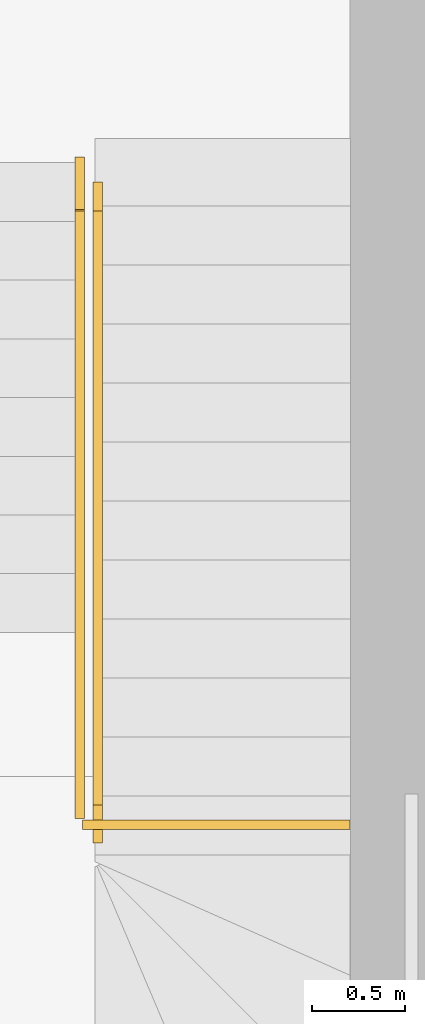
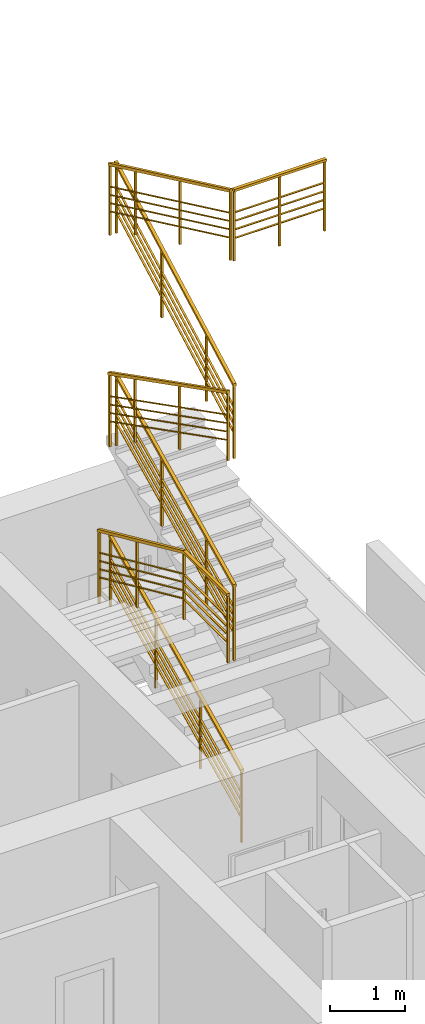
# One storey, part 44 of 49: 1 railing.
"""IFC2X3 building model written with IfcOpenShell, lengths in millimetres."""

from ifc_helpers import new_model, entity, si_unit, converted_unit, derived_unit, direction, frame, frame_2d, origin, place, context, subcontext, project, spatial, polyline, rectangle, outline, extrude, source, transform, mapped, material, type_object, type_shapes, element, save


model = new_model("IFC2X3")

# Units and contexts
model_context = context("Model", 3, precision=0.01, world=origin(), true_north=direction((6.12303176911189e-17, 1.0)))
body_context = subcontext(model_context, "Body", "Model", "MODEL_VIEW")
ifc_project = project(units=[si_unit("LENGTHUNIT", "METRE", prefix="MILLI"), si_unit("AREAUNIT", "SQUARE_METRE"), si_unit("VOLUMEUNIT", "CUBIC_METRE"), converted_unit("PLANEANGLEUNIT", "DEGREE", entity("IfcRatioMeasure", 0.0174532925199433), si_unit("PLANEANGLEUNIT", "RADIAN"), dimensions=[0, 0, 0, 0, 0, 0, 0]), si_unit("MASSUNIT", "GRAM", prefix="KILO"), derived_unit("MASSDENSITYUNIT", [(si_unit("MASSUNIT", "GRAM", prefix="KILO"), 1), (si_unit("LENGTHUNIT", "METRE"), -3)]), si_unit("TIMEUNIT", "SECOND"), si_unit("FREQUENCYUNIT", "HERTZ"), si_unit("THERMODYNAMICTEMPERATUREUNIT", "DEGREE_CELSIUS"), derived_unit("THERMALTRANSMITTANCEUNIT", [(si_unit("MASSUNIT", "GRAM", prefix="KILO"), 1), (si_unit("THERMODYNAMICTEMPERATUREUNIT", "KELVIN"), -1), (si_unit("TIMEUNIT", "SECOND"), -3)]), derived_unit("VOLUMETRICFLOWRATEUNIT", [(si_unit("LENGTHUNIT", "METRE"), 3), (si_unit("TIMEUNIT", "SECOND"), -1)]), si_unit("ELECTRICCURRENTUNIT", "AMPERE"), si_unit("ELECTRICVOLTAGEUNIT", "VOLT"), si_unit("POWERUNIT", "WATT"), si_unit("FORCEUNIT", "NEWTON", prefix="KILO"), si_unit("ILLUMINANCEUNIT", "LUX"), si_unit("LUMINOUSFLUXUNIT", "LUMEN"), si_unit("LUMINOUSINTENSITYUNIT", "CANDELA"), derived_unit("USERDEFINED", [(si_unit("MASSUNIT", "GRAM", prefix="KILO"), -1), (si_unit("LENGTHUNIT", "METRE"), -2), (si_unit("TIMEUNIT", "SECOND"), 3), (si_unit("LUMINOUSFLUXUNIT", "LUMEN"), 1)]), derived_unit("LINEARVELOCITYUNIT", [(si_unit("LENGTHUNIT", "METRE"), 1), (si_unit("TIMEUNIT", "SECOND"), -1)]), si_unit("PRESSUREUNIT", "PASCAL"), derived_unit("USERDEFINED", [(si_unit("LENGTHUNIT", "METRE"), -2), (si_unit("MASSUNIT", "GRAM", prefix="KILO"), 1), (si_unit("TIMEUNIT", "SECOND"), -2)])], contexts=[model_context])

# Site, building, storey
site_placement = place(None, frame((-151.875543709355, 2715.0, 0.0)))
site = spatial("IfcSite", under=ifc_project, at=site_placement, Name="Surface", CompositionType="ELEMENT")
building_placement = place(site_placement, origin())
building = spatial("IfcBuilding", under=site, at=building_placement, CompositionType="ELEMENT")
storey_placement = place(building_placement, origin())
storey = spatial("IfcBuildingStorey", under=building, at=storey_placement, Name="1 korrus", CompositionType="ELEMENT", Elevation=3.0969999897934e-10)

# Railing
ifc_material = material(Name="__Metal Tumehall")
railing_type = type_object("IfcRailingType", Name="Generic Models 7", PredefinedType="NOTDEFINED", material=ifc_material)
shared_shape = source(origin(), body_context, "Body", "SweptSolid", [
    extrude(outline(polyline([(-1974.06397110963, -19.8931371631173), (1954.90163188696, -19.8931371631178), (1974.06397110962, 19.8931371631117), (-1954.90163188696, 19.8931371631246), (-1974.06397110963, -19.8931371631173)])), frame((33791.6162682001, 9910.0918754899, 2530.26647645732), z_axis=(1.0, 0.0, 0.0), x_axis=(0.0, 0.90094868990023, 0.43392563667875)), (0.0, 0.0, 1.0), 50.0000000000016),
    extrude(outline(polyline([(-2368.06977278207, -772.760373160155), (1560.89583021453, -772.760373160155), (2060.34285601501, 264.228699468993), (2033.31439531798, 277.246468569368), (1859.05779388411, -84.5580516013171), (669.999617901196, -84.5580516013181), (835.982995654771, 260.068986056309), (808.954534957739, 273.086755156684), (636.701384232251, -84.5580516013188), (-655.35125931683, -84.5580516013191), (-497.856743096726, 242.443780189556), (-524.885203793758, 255.461549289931), (-688.649492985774, -84.558051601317), (-2003.3113417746, -84.5580516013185), (-1850.04856686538, 233.65752404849), (-1877.07702756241, 246.675293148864), (-2368.06977278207, -772.760373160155)]), holes=[polyline([(-869.961041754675, -461.010578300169), (-1015.29337124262, -762.760373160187), (-2329.95522003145, -762.760373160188), (-2184.6228905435, -461.010578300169), (-869.961041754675, -461.010578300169)]), polyline([(-865.144722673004, -451.010578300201), (-2179.80657146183, -451.010578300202), (-2125.79114731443, -338.859736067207), (-811.129298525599, -338.859736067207), (-865.144722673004, -451.010578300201)]), polyline([(-806.312979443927, -328.859736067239), (-2120.97482823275, -328.85973606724), (-2066.95940408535, -216.708893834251), (-752.297555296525, -216.708893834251), (-806.312979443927, -328.859736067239)]), polyline([(-747.481236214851, -206.708893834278), (-2062.14308500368, -206.70889383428), (-2008.12766085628, -94.5580516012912), (-693.465812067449, -94.5580516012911), (-747.481236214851, -206.708893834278)]), polyline([(-981.995137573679, -762.760373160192), (-836.662808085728, -461.010578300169), (455.389835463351, -461.010578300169), (310.057505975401, -762.760373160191), (-981.995137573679, -762.760373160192)]), polyline([(460.206154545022, -451.010578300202), (-831.846489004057, -451.010578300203), (-777.831064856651, -338.859736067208), (514.221578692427, -338.859736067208), (460.206154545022, -451.010578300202)]), polyline([(519.0378977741, -328.859736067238), (-773.01474577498, -328.859736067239), (-718.999321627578, -216.708893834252), (573.053321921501, -216.708893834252), (519.0378977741, -328.859736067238)]), polyline([(577.869641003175, -206.708893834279), (-714.183002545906, -206.70889383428), (-660.167578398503, -94.5580516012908), (631.885065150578, -94.558051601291), (577.869641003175, -206.708893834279)]), polyline([(343.355739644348, -762.760373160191), (488.688069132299, -461.010578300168), (1677.74624511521, -461.010578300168), (1532.41391562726, -762.76037316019), (343.355739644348, -762.760373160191)]), polyline([(547.519812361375, -338.859736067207), (1736.57798834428, -338.859736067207), (1682.56256419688, -451.010578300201), (493.504388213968, -451.010578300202), (547.519812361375, -338.859736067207)]), polyline([(606.351555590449, -216.708893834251), (1795.40973157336, -216.70889383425), (1741.39430742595, -328.859736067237), (552.336131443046, -328.859736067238), (606.351555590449, -216.708893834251)]), polyline([(665.183298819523, -94.5580516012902), (1854.24147480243, -94.5580516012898), (1800.22605065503, -206.708893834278), (611.167874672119, -206.708893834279), (665.183298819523, -94.5580516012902)])]), frame((33801.6162682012, 9881.80125937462, 1636.84208619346), z_axis=(1.0, 0.0, 0.0), x_axis=(0.0, -0.90094868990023, -0.43392563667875)), (0.0, 0.0, 1.0), 30.0000000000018),
    extrude(outline(polyline([(-717.709927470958, -1923.60066880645), (-674.021776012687, -1923.60066880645), (369.777001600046, 377.504891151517), (369.777001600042, 1546.09577765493), (326.088850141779, 1546.09577765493), (326.088850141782, 377.504891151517), (-717.709927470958, -1923.60066880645)])), frame((33694.5109061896, 9889.38501841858, 4113.37887731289), z_axis=(1.0, 0.0, 0.0), x_axis=(0.0, 0.0, 1.0)), (0.0, 0.0, 1.0), 50.0000000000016),
    extrude(outline(polyline([(-1168.9382876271, -1738.22424888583), (-80.7248805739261, -1738.22424888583), (-80.7248805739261, -1708.2242488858), (-403.312469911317, -1708.2242488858), (-403.312469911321, -569.566163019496), (-80.7248805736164, -569.566163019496), (-80.7248805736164, -539.566163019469), (-400.842394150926, -539.566163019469), (155.170509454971, 688.170043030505), (488.874318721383, 688.170043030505), (488.874318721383, 718.170043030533), (168.756805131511, 718.170043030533), (614.071265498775, 1701.47219757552), (1040.16297114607, 1701.47219757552), (1040.16297114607, 1731.47219757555), (-127.829728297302, 1731.47219757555), (-1168.93828762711, -567.407314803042), (-1168.9382876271, -1738.22424888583)]), holes=[polyline([(-535.46331214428, -569.566163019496), (-413.312469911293, -569.566163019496), (-413.312469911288, -1708.2242488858), (-535.463312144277, -1708.2242488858), (-535.46331214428, -569.566163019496)]), polyline([(-657.614154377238, -569.566163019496), (-545.463312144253, -569.566163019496), (-545.463312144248, -1708.2242488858), (-657.614154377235, -1708.2242488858), (-657.614154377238, -569.566163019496)]), polyline([(-804.764996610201, -569.566163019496), (-667.614154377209, -569.566163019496), (-667.614154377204, -1708.2242488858), (-804.764996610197, -1708.2242488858), (-804.764996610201, -569.566163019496)]), polyline([(-814.764996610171, -569.566163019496), (-814.764996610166, -1708.2242488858), (-1158.9382876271, -1708.2242488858), (-1158.93828762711, -569.566163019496), (-814.764996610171, -569.566163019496)]), polyline([(-258.087467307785, 688.170043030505), (-814.100370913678, -539.566163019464), (-1145.35199195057, -539.566163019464), (-589.339088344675, 688.170043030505), (-258.087467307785, 688.170043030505)]), polyline([(-247.109775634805, 688.170043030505), (-123.994038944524, 688.170043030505), (-680.006942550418, -539.566163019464), (-803.1226792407, -539.566163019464), (-247.109775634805, 688.170043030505)]), polyline([(-113.016347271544, 688.170043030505), (10.0993894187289, 688.170043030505), (-545.913514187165, -539.566163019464), (-669.029250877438, -539.566163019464), (-113.016347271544, 688.170043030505)]), polyline([(21.0770810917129, 688.170043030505), (144.192817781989, 688.170043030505), (-411.820085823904, -539.566163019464), (-534.935822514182, -539.566163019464), (21.0770810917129, 688.170043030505)]), polyline([(200.813288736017, 1701.47219757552), (-244.501171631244, 718.170043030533), (-575.752792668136, 718.170043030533), (-130.438332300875, 1701.47219757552), (200.813288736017, 1701.47219757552)]), polyline([(211.790980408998, 1701.47219757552), (334.906717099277, 1701.47219757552), (-110.407743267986, 718.170043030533), (-233.523479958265, 718.170043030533), (211.790980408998, 1701.47219757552)]), polyline([(345.88440877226, 1701.47219757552), (469.000145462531, 1701.47219757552), (23.6856850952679, 718.170043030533), (-99.430051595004, 718.170043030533), (345.88440877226, 1701.47219757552)]), polyline([(479.977837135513, 1701.47219757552), (603.09357382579, 1701.47219757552), (157.779113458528, 718.170043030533), (34.6633767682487, 718.170043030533), (479.977837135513, 1701.47219757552)])]), frame((33704.5109061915, 10081.5134896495, 3269.27511942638), z_axis=(1.0, 0.0, 0.0), x_axis=(0.0, 0.0, -1.0)), (0.0, 0.0, 1.0), 30.0000000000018),
    extrude(outline(polyline([(-1774.75066865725, -19.8931371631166), (1755.58832943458, -19.8931371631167), (1774.75066865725, 19.8931371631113), (-1755.58832943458, 19.8931371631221), (-1774.75066865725, -19.8931371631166)])), frame((33791.6162682, 9933.61638838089, 5341.63094746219), z_axis=(1.0, 0.0, 0.0), x_axis=(0.0, 0.90094868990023, 0.43392563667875)), (0.0, 0.0, 1.0), 50.0000000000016),
    extrude(outline(polyline([(-2269.4116019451, -774.833492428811), (1260.92739614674, -774.833492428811), (1783.19961455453, 309.54694323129), (1756.1711538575, 322.564712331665), (1559.08935981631, -86.6311708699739), (768.657788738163, -86.631170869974), (924.749600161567, 237.458260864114), (897.721139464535, 250.476029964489), (735.359555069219, -86.6311708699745), (-556.693088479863, -86.6311708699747), (-404.144355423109, 230.101857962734), (-431.172816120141, 243.119627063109), (-589.991322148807, -86.6311708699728), (-1904.65317093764, -86.6311708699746), (-1751.39039602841, 231.584404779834), (-1778.41885672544, 244.602173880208), (-2269.4116019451, -774.833492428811)]), holes=[polyline([(-771.302870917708, -463.083697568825), (-916.635200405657, -764.833492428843), (-2231.29704865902, -764.833492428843), (-2085.96471970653, -463.083697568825), (-771.302870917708, -463.083697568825)]), polyline([(-766.486551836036, -453.083697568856), (-2081.14840062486, -453.083697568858), (-2027.13297647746, -340.932855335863), (-712.471127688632, -340.932855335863), (-766.486551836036, -453.083697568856)]), polyline([(-707.65480860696, -330.932855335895), (-2022.31665739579, -330.932855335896), (-1968.30123324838, -218.782013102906), (-653.639384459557, -218.782013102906), (-707.65480860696, -330.932855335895)]), polyline([(-648.823065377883, -208.782013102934), (-1963.48491416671, -208.782013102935), (-1909.46949001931, -96.6311708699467), (-594.807641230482, -96.6311708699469), (-648.823065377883, -208.782013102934)]), polyline([(-883.336966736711, -764.833492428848), (-738.004637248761, -463.083697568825), (554.048006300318, -463.083697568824), (408.715676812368, -764.833492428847), (-883.336966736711, -764.833492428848)]), polyline([(558.864325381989, -453.083697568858), (-733.18831816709, -453.083697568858), (-679.172894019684, -340.932855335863), (612.879749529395, -340.932855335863), (558.864325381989, -453.083697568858)]), polyline([(617.696068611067, -330.932855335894), (-674.356574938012, -330.932855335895), (-620.34115079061, -218.782013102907), (671.711492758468, -218.782013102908), (617.696068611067, -330.932855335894)]), polyline([(676.527811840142, -208.782013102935), (-615.524831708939, -208.782013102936), (-561.509407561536, -96.6311708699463), (730.543235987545, -96.6311708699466), (676.527811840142, -208.782013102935)]), polyline([(442.013910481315, -764.833492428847), (587.346239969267, -463.083697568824), (1377.77781104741, -463.083697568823), (1232.44548155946, -764.833492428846), (442.013910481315, -764.833492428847)]), polyline([(646.177983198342, -340.932855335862), (1436.60955427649, -340.932855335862), (1382.59413012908, -453.083697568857), (592.162559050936, -453.083697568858), (646.177983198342, -340.932855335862)]), polyline([(705.009726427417, -218.782013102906), (1495.44129750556, -218.782013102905), (1441.42587335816, -330.932855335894), (650.994302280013, -330.932855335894), (705.009726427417, -218.782013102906)]), polyline([(763.84146965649, -96.6311708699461), (1554.27304073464, -96.6311708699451), (1500.25761658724, -208.782013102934), (709.826045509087, -208.782013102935), (763.84146965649, -96.6311708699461)])]), frame((33801.6162682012, 9815.54024290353, 4402.66194103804), z_axis=(1.0, 0.0, 0.0), x_axis=(0.0, -0.90094868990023, -0.43392563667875)), (0.0, 0.0, 1.0), 30.0000000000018),
    extrude(outline(polyline([(-835.718605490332, -1594.6352105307), (-791.0554559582, -1594.6352105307), (835.718605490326, 1594.6352105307), (791.055455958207, 1594.6352105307), (-835.718605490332, -1594.6352105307)])), frame((33694.5109061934, 9937.92445129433, 6965.8068040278), z_axis=(1.0, 0.0, 0.0), x_axis=(0.0, 0.0, 1.0)), (0.0, 0.0, 1.0), 50.0000000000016),
    extrude(outline(polyline([(-1724.3577434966, -1747.65043326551), (-622.213405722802, -1747.65043326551), (-622.213405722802, -1717.65043326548), (-936.495450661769, -1717.65043326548), (-293.755472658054, -457.566658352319), (-18.3121495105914, -457.566658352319), (-18.3121495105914, -427.566658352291), (-278.453157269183, -427.566658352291), (313.829979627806, 733.597103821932), (585.589106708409, 733.597103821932), (585.589106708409, 763.59710382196), (329.13229501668, 763.59710382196), (659.673980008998, 1411.61998779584), (1068.94107426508, 1411.61998779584), (1068.94107426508, 1441.61998779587), (-97.5836820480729, 1441.61998779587), (-1724.3577434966, -1747.65043326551)]), holes=[polyline([(-430.879177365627, -457.566658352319), (-304.981240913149, -457.566658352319), (-947.721218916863, -1717.65043326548), (-1073.61915536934, -1717.65043326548), (-430.879177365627, -457.566658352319)]), polyline([(-568.002882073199, -457.566658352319), (-442.104945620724, -457.566658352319), (-1084.84492362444, -1717.65043326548), (-1210.74286007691, -1717.65043326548), (-568.002882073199, -457.566658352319)]), polyline([(-705.126586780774, -457.566658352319), (-579.228650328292, -457.566658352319), (-1221.968628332, -1717.65043326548), (-1347.86656478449, -1717.65043326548), (-705.126586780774, -457.566658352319)]), polyline([(-716.352355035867, -457.566658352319), (-1359.09233303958, -1717.65043326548), (-1697.82965985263, -1717.65043326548), (-1055.08968184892, -457.566658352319), (-716.352355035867, -457.566658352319)]), polyline([(-108.766902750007, 733.597103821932), (-701.050039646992, -427.566658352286), (-1039.78736646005, -427.566658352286), (-447.504229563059, 733.597103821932), (-108.766902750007, 733.597103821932)]), polyline([(-97.5411344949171, 733.597103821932), (28.3568019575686, 733.597103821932), (-563.926334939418, -427.566658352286), (-689.824271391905, -427.566658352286), (-97.5411344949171, 733.597103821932)]), polyline([(39.5825702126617, 733.597103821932), (165.480506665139, 733.597103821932), (-426.802630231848, -427.566658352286), (-552.700566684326, -427.566658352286), (39.5825702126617, 733.597103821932)]), polyline([(176.706274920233, 733.597103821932), (302.604211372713, 733.597103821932), (-289.678925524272, -427.566658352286), (-415.576861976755, -427.566658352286), (176.706274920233, 733.597103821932)]), polyline([(237.077097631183, 1411.61998779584), (-93.4645873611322, 763.59710382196), (-432.201914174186, 763.59710382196), (-101.660229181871, 1411.61998779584), (237.077097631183, 1411.61998779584)]), polyline([(248.302865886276, 1411.61998779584), (374.20080233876, 1411.61998779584), (43.6591173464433, 763.59710382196), (-82.2388191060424, 763.59710382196), (248.302865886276, 1411.61998779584)]), polyline([(385.426570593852, 1411.61998779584), (511.324507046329, 1411.61998779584), (180.782822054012, 763.59710382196), (54.8848856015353, 763.59710382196), (385.426570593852, 1411.61998779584)]), polyline([(522.550275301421, 1411.61998779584), (648.448211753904, 1411.61998779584), (317.906526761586, 763.59710382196), (192.008590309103, 763.59710382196), (522.550275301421, 1411.61998779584)])]), frame((33704.5109061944, 10090.9396740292, 6032.50451648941), z_axis=(1.0, 0.0, 0.0), x_axis=(0.0, 0.0, -1.0)), (0.0, 0.0, 1.0), 30.0000000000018),
    extrude(outline(polyline([(-1816.70003636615, -19.8931371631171), (1795.2887242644, -19.893137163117), (1816.70003636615, 19.8931371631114), (-1795.2887242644, 19.8931371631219), (-1816.70003636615, -19.8931371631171)])), frame((33791.6162682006, 9933.6163883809, 8712.50408652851), z_axis=(1.0, 0.0, 0.0), x_axis=(0.0, 0.880582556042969, 0.473892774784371)), (0.0, 0.0, 1.0), 50.0000000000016),
    extrude(outline(polyline([(-2346.30079963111, -754.829533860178), (1265.68796099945, -754.829533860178), (1824.57226454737, 283.683384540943), (1798.15478786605, 297.900167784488), (1601.98136784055, -66.6272123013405), (793.268676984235, -66.6272123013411), (942.665497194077, 210.980383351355), (916.248020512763, 225.1971665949), (759.200320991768, -66.6272123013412), (-562.734946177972, -66.627212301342), (-413.338125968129, 210.980383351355), (-439.755602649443, 225.1971665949), (-596.803302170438, -66.6272123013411), (-1941.87068080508, -66.6272123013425), (-1787.27898142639, 220.633453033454), (-1813.6964581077, 234.850236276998), (-2346.30079963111, -754.829533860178)]), holes=[polyline([(-799.394338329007, -443.079739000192), (-961.783482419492, -744.82953386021), (-2306.85086105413, -744.829533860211), (-2144.46171696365, -443.079739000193), (-799.394338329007, -443.079739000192)]), polyline([(-794.012755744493, -433.079739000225), (-2139.08013437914, -433.079739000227), (-2078.72523243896, -320.928896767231), (-733.657853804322, -320.928896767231), (-794.012755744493, -433.079739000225)]), polyline([(-728.276271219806, -310.928896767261), (-2073.34364985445, -310.928896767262), (-2012.98874791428, -198.778054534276), (-667.92136927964, -198.778054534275), (-728.276271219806, -310.928896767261)]), polyline([(-662.539786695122, -188.778054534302), (-2007.60716532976, -188.778054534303), (-1947.2522633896, -76.6272123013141), (-602.184884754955, -76.6272123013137), (-662.539786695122, -188.778054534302)]), polyline([(-927.715126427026, -744.829533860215), (-765.325982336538, -443.079739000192), (556.609284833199, -443.079739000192), (394.220140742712, -744.829533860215), (-927.715126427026, -744.829533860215)]), polyline([(561.990867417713, -433.079739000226), (-759.944399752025, -433.079739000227), (-699.589497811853, -320.928896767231), (622.345769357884, -320.928896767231), (561.990867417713, -433.079739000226)]), polyline([(627.7273519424, -310.928896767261), (-694.207915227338, -310.928896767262), (-633.853013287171, -198.778054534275), (688.082253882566, -198.778054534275), (627.7273519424, -310.928896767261)]), polyline([(693.463836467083, -188.778054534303), (-628.471430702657, -188.778054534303), (-568.116528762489, -76.6272123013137), (753.818738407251, -76.6272123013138), (693.463836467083, -188.778054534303)]), polyline([(428.288496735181, -744.829533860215), (590.677640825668, -443.079739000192), (1399.39033168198, -443.079739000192), (1237.00118759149, -744.829533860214), (428.288496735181, -744.829533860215)]), polyline([(656.414125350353, -320.92889676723), (1465.12681620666, -320.92889676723), (1404.77191426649, -433.079739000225), (596.059223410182, -433.079739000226), (656.414125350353, -320.92889676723)]), polyline([(722.150609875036, -198.778054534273), (1530.86330073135, -198.778054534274), (1470.50839879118, -310.928896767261), (661.795707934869, -310.928896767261), (722.150609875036, -198.778054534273)]), polyline([(787.887094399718, -76.6272123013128), (1596.59978525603, -76.6272123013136), (1536.24488331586, -188.778054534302), (727.532192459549, -188.778054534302), (787.887094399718, -76.6272123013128)])]), frame((33801.6162681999, 9815.54024290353, 7769.17617531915), z_axis=(1.0, 0.0, 0.0), x_axis=(0.0, -0.880582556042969, -0.473892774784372)), (0.0, 0.0, 1.0), 30.0000000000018),
    extrude(outline(polyline([(-791.221035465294, -1626.7765778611), (-747.211155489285, -1626.7765778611), (791.221035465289, 1626.7765778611), (747.211155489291, 1626.7765778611), (-791.221035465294, -1626.7765778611)])), frame((33694.5109061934, 9897.16695813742, 10345.7985768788), z_axis=(1.0, 0.0, 0.0), x_axis=(0.0, 0.0, 1.0)), (0.0, 0.0, 1.0), 50.0000000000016),
    extrude(outline(polyline([(-1676.62282428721, -1795.86248426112), (-552.730733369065, -1795.86248426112), (-552.730733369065, -1765.86248426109), (-901.177360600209, -1765.86248426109), (-274.9548975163, -441.495974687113), (10.5072371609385, -441.495974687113), (10.5072371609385, -411.495974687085), (-260.769493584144, -411.495974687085), (288.283073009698, 749.667787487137), (573.745207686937, 749.667787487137), (573.745207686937, 779.667787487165), (302.468476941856, 779.667787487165), (608.884022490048, 1427.69067146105), (994.51810696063, 1427.69067146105), (994.51810696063, 1457.69067146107), (-138.190633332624, 1457.69067146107), (-1676.62282428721, -1795.86248426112)]), holes=[polyline([(-410.072950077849, -441.495974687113), (-286.016471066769, -441.495974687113), (-912.238934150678, -1765.86248426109), (-1036.29541316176, -1765.86248426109), (-410.072950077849, -441.495974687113)]), polyline([(-545.191002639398, -441.495974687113), (-421.13452362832, -441.495974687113), (-1047.35698671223, -1765.86248426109), (-1171.41346572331, -1765.86248426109), (-545.191002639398, -441.495974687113)]), polyline([(-680.30905520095, -441.495974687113), (-556.252576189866, -441.495974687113), (-1182.47503927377, -1765.86248426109), (-1306.53151828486, -1765.86248426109), (-680.30905520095, -441.495974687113)]), polyline([(-691.370628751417, -441.495974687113), (-1317.59309183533, -1765.86248426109), (-1651.37584680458, -1765.86248426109), (-1025.15338372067, -441.495974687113), (-691.370628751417, -441.495974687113)]), polyline([(-128.13265822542, 749.667787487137), (-677.185224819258, -411.495974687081), (-1010.96797978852, -411.495974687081), (-461.915413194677, 749.667787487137), (-128.13265822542, 749.667787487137)]), polyline([(-117.071084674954, 749.667787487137), (6.98539433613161, 749.667787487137), (-542.067172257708, -411.495974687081), (-666.123651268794, -411.495974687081), (-117.071084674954, 749.667787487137)]), polyline([(18.0469678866, 749.667787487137), (142.103446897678, 749.667787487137), (-406.949119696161, -411.495974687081), (-531.005598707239, -411.495974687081), (18.0469678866, 749.667787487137)]), polyline([(153.165020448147, 749.667787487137), (277.221499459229, 749.667787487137), (-271.831067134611, -411.495974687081), (-395.887546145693, -411.495974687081), (153.165020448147, 749.667787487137)]), polyline([(192.468291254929, 1427.69067146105), (-113.947254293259, 779.667787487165), (-447.730009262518, 779.667787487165), (-141.31446371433, 1427.69067146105), (192.468291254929, 1427.69067146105)]), polyline([(203.529864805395, 1427.69067146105), (327.586343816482, 1427.69067146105), (21.1707982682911, 779.667787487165), (-102.885680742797, 779.667787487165), (203.529864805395, 1427.69067146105)]), polyline([(338.647917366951, 1427.69067146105), (462.704396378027, 1427.69067146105), (156.288850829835, 779.667787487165), (32.2323718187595, 779.667787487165), (338.647917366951, 1427.69067146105)]), polyline([(473.765969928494, 1427.69067146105), (597.822448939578, 1427.69067146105), (291.406903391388, 779.667787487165), (167.350424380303, 779.667787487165), (473.765969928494, 1427.69067146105)])]), frame((33704.5109061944, 10066.2528645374, 9416.38690808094), z_axis=(1.0, 0.0, 0.0), x_axis=(0.0, 0.0, -1.0)), (0.0, 0.0, 1.0), 30.0000000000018),
    extrude(rectangle(XDim=49.9999999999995, YDim=1430.75700116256, at=frame_2d((-5.41788836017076e-13, 2.1600499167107e-12), x_axis=(1.0, 0.0))), frame((34451.2377676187, 8236.8983197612, 11114.11764145), z_axis=(0.0, 0.0, 1.0), x_axis=(0.0, -1.0, 0.0)), (0.0, 0.0, 1.0), 39.9999999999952),
    extrude(outline(polyline([(-714.979235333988, -834.166666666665), (714.979235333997, -834.166666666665), (714.979235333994, 310.833333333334), (684.979235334, 310.833333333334), (684.979235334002, -49.1666666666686), (15.0, -49.1666666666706), (15.0, 310.833333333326), (-15.0, 310.833333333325), (-15.0, -49.1666666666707), (-684.979235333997, -49.1666666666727), (-684.979235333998, 310.833333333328), (-714.979235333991, 310.833333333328), (-714.979235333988, -834.166666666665)]), holes=[polyline([(15.0, -824.166666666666), (15.0, -479.166666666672), (684.979235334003, -479.16666666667), (684.979235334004, -824.166666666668), (15.0, -824.166666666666)]), polyline([(-15.0, -59.1666666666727), (-15.0, -189.166666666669), (-684.979235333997, -189.166666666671), (-684.979235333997, -59.1666666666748), (-15.0, -59.1666666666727)]), polyline([(-15.0, -199.166666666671), (-15.0, -329.166666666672), (-684.979235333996, -329.166666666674), (-684.979235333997, -199.166666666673), (-15.0, -199.166666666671)]), polyline([(-15.0, -339.16666666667), (-15.0, -469.166666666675), (-684.979235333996, -469.166666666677), (-684.979235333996, -339.166666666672), (-15.0, -339.16666666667)]), polyline([(-15.0, -479.166666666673), (-15.0, -824.166666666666), (-684.979235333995, -824.166666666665), (-684.979235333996, -479.166666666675), (-15.0, -479.166666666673)]), polyline([(684.979235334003, -469.166666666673), (15.0, -469.166666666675), (15.0, -339.16666666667), (684.979235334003, -339.166666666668), (684.979235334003, -469.166666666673)]), polyline([(684.979235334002, -329.16666666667), (15.0, -329.166666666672), (15.0, -199.166666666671), (684.979235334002, -199.166666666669), (684.979235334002, -329.16666666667)]), polyline([(684.979235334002, -189.166666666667), (15.0, -189.166666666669), (15.0, -59.1666666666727), (684.979235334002, -59.1666666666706), (684.979235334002, -189.166666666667)])]), frame((34450.8385023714, 8231.89831976, 10279.9509747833), z_axis=(0.0, 1.0, 0.0), x_axis=(1.0, 0.0, 0.0)), (0.0, 0.0, 1.0), 29.9999999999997),
])
type_shapes(railing_type, [shared_shape])
railing_placement = place(storey_placement, origin())
element("IfcRailing", 1, at=railing_placement, inside=storey, type_object=railing_type, material=ifc_material, Name="Generic Models 2:Generic Models 7", ObjectType="Generic Models 7", PredefinedType="NOTDEFINED", context=body_context, shape_type="MappedRepresentation", body=[
    mapped(shared_shape, transform((0.0, 0.0, 0.0), scale=1.0)),
])

save(model, "model.ifc")
